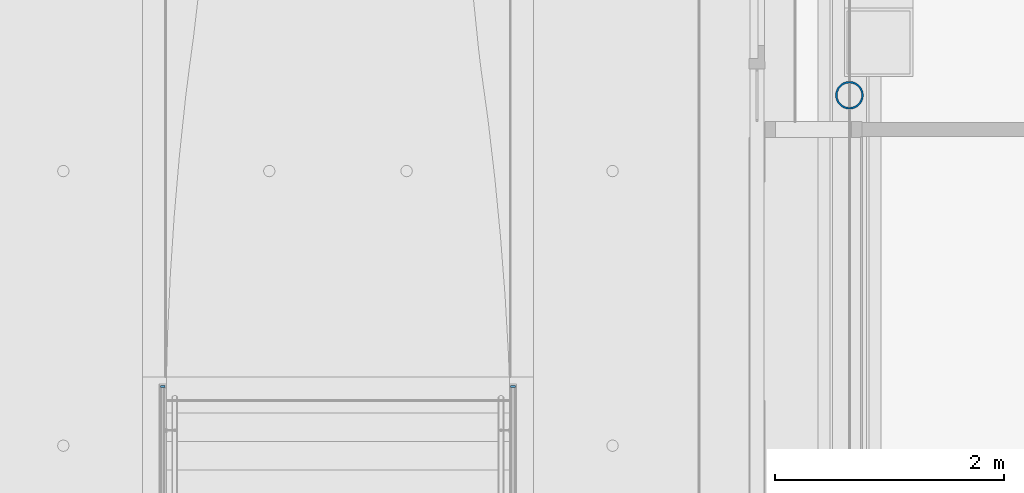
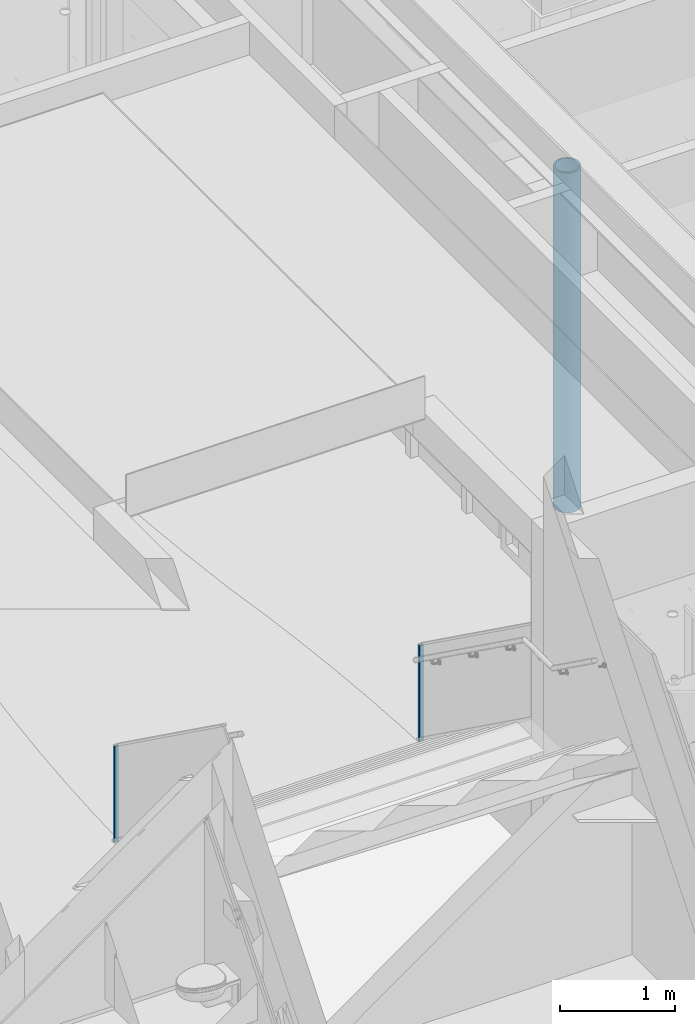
# One storey, part 20 of 347: 3 columns.
"""IFC2X3 building model written with IfcOpenShell, lengths in millimetres."""

from ifc_helpers import new_model, entity, si_unit, converted_unit, derived_unit, money_unit, direction, frame, origin_with_axes, place, context, subcontext, project, spatial, faceted_brep, material, type_object, element, save


model = new_model("IFC2X3")

# Units and contexts
model_context = context("Model", 3, precision=0.01, world=origin_with_axes(), true_north=direction((0.0, 1.0)))
plan_context = context("Plan", 3, precision=0.01, world=origin_with_axes(), true_north=direction((0.0, 1.0)))
body_context = subcontext(model_context, "Body", "Model", "MODEL_VIEW")
ifc_project = project(units=[si_unit("LENGTHUNIT", "METRE", prefix="MILLI"), si_unit("AREAUNIT", "SQUARE_METRE"), si_unit("VOLUMEUNIT", "CUBIC_METRE"), converted_unit("PLANEANGLEUNIT", "DEGREE", entity("IfcPlaneAngleMeasure", 0.0174532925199), si_unit("PLANEANGLEUNIT", "RADIAN"), dimensions=[0, 0, 0, 0, 0, 0, 0]), money_unit("EUR"), converted_unit("TIMEUNIT", "Year", entity("IfcTimeMeasure", 31556926.0), si_unit("TIMEUNIT", "SECOND"), dimensions=[0, 0, 1, 0, 0, 0, 0]), si_unit("MASSUNIT", "GRAM", prefix="KILO"), si_unit("THERMODYNAMICTEMPERATUREUNIT", "DEGREE_CELSIUS"), si_unit("LUMINOUSINTENSITYUNIT", "LUMEN"), si_unit("ENERGYUNIT", "JOULE", prefix="MEGA"), derived_unit("THERMALCONDUCTANCEUNIT", [(si_unit("POWERUNIT", "WATT"), 1), (si_unit("LENGTHUNIT", "METRE"), -1), (si_unit("THERMODYNAMICTEMPERATUREUNIT", "KELVIN"), -1)]), derived_unit("SPECIFICHEATCAPACITYUNIT", [(si_unit("ENERGYUNIT", "JOULE"), 1), (si_unit("MASSUNIT", "GRAM", prefix="KILO"), -1), (si_unit("THERMODYNAMICTEMPERATUREUNIT", "KELVIN"), -1)]), derived_unit("MASSDENSITYUNIT", [(si_unit("MASSUNIT", "GRAM", prefix="KILO"), 1), (si_unit("VOLUMEUNIT", "CUBIC_METRE"), -1)])], contexts=[model_context, plan_context])

# Site, building, storey
site_placement = place(None, origin_with_axes())
site = spatial("IfcSite", under=ifc_project, at=site_placement, Name="Site", CompositionType="ELEMENT")
building_placement = place(site_placement, origin_with_axes())
building = spatial("IfcBuilding", under=site, at=building_placement, Name="Naam gebouw", CompositionType="ELEMENT")
storey_placement = place(building_placement, origin_with_axes())
storey = spatial("IfcBuildingStorey", under=building, at=storey_placement, Name="begane grond", CompositionType="ELEMENT", Elevation=0.0)

# Columns
ifc_material_1 = material(Name="Metaal - RVS")
column_type_1 = type_object("IfcColumnType", Name="Metaal - RVS 40 x 20", PredefinedType="COLUMN")
column_1_placement = place(storey_placement, frame((38545.0, 36779.9999997, 0.0), z_axis=(0.0, 0.0, 1.0), x_axis=(1.0, 0.0, 0.0)))
element("IfcColumn", 1, at=column_1_placement, inside=storey, type_object=column_type_1, material=ifc_material_1, Name="28_kolom ø 274mm", ObjectType="COLUMN", context=body_context, shape_type="Brep", body=[
    faceted_brep([(-20.0, -10.0, 1021.59999667), (-20.0, -10.0, 0.0), (20.0, -10.0, 0.0), (20.0, -10.0, 1021.59999667), (-20.0, 10.0, 1021.59999667), (-20.0, 10.0, 0.0), (20.0, 10.0, 0.0), (20.0, 10.0, 1021.59999667)], [[[0, 1, 2, 3]], [[4, 5, 1, 0]], [[2, 1, 5, 6]], [[3, 2, 6, 7]], [[4, 0, 3, 7]], [[7, 6, 5, 4]]]),
])
column_2_placement = place(storey_placement, frame((41605.0, 36779.9999997, 0.0), z_axis=(0.0, 0.0, 1.0), x_axis=(1.0, 0.0, 0.0)))
element("IfcColumn", 2, at=column_2_placement, inside=storey, type_object=column_type_1, material=ifc_material_1, Name="28_kolom ø 274mm", ObjectType="COLUMN", context=body_context, shape_type="Brep", body=[
    faceted_brep([(20.0, 10.0, 1021.59999667), (20.0, 10.0, 0.0), (-20.0, 10.0, 0.0), (-20.0, 10.0, 1021.59999667), (20.0, -10.0, 1021.59999667), (20.0, -10.0, 0.0), (-20.0, -10.0, 0.0), (-20.0, -10.0, 1021.59999667)], [[[0, 1, 2, 3]], [[4, 5, 1, 0]], [[2, 1, 5, 6]], [[3, 2, 6, 7]], [[4, 0, 3, 7]], [[7, 6, 5, 4]]]),
])
ifc_material_2 = material(Name="Metaal - Staal C wit")
column_type_2 = type_object("IfcColumnType", Name="Lucht D245", PredefinedType="COLUMN")
column_3_placement = place(storey_placement, frame((44545.0, 39325.0, -70.0), z_axis=(0.0, 0.0, 1.0), x_axis=(1.0, 0.0, 0.0)))
element("IfcColumn", 3, at=column_3_placement, inside=storey, type_object=column_type_2, material=ifc_material_2, Name="28_kolom ø 273mm", ObjectType="COLUMN", context=body_context, shape_type="Brep", body=[
    faceted_brep([(-122.25, 0.0, 0.0), (-119.184937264, -27.2031841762, 0.0), (-119.184937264, -27.2031841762, 3610.0), (-122.25, 0.0, 3610.0), (-119.184937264, 27.2031841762, 0.0), (-110.143444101, 53.0422871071, 0.0), (-95.5788987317, 76.2216282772, 0.0), (-76.2216282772, 95.5788987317, 0.0), (-53.0422871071, 110.143444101, 0.0), (-27.2031841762, 119.184937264, 0.0), (0.0, 122.25, 0.0), (27.2031841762, 119.184937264, 0.0), (53.0422871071, 110.143444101, 0.0), (76.2216282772, 95.5788987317, 0.0), (95.5788987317, 76.2216282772, 0.0), (110.143444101, 53.0422871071, 0.0), (119.184937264, 27.2031841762, 0.0), (122.25, 0.0, 0.0), (119.184937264, -27.2031841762, 0.0), (110.143444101, -53.0422871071, 0.0), (95.5788987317, -76.2216282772, 0.0), (76.2216282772, -95.5788987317, 0.0), (53.0422871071, -110.143444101, 0.0), (27.2031841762, -119.184937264, 0.0), (0.0, -122.25, 0.0), (-27.2031841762, -119.184937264, 0.0), (-53.0422871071, -110.143444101, 0.0), (-76.2216282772, -95.5788987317, 0.0), (-95.5788987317, -76.2216282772, 0.0), (-110.143444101, -53.0422871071, 0.0), (-106.25, 0.0, 0.0), (-102.629619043, -27.4995235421, 0.0), (-92.0151991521, -53.125, 0.0), (-75.1300955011, -75.1300955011, 0.0), (-53.125, -92.0151991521, 0.0), (-27.4995235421, -102.629619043, 0.0), (0.0, -106.25, 0.0), (27.4995235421, -102.629619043, 0.0), (53.125, -92.0151991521, 0.0), (75.1300955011, -75.1300955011, 0.0), (92.0151991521, -53.125, 0.0), (102.629619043, -27.4995235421, 0.0), (106.25, 0.0, 0.0), (102.629619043, 27.4995235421, 0.0), (92.0151991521, 53.125, 0.0), (75.1300955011, 75.1300955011, 0.0), (53.125, 92.0151991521, 0.0), (27.4995235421, 102.629619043, 0.0), (0.0, 106.25, 0.0), (-27.4995235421, 102.629619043, 0.0), (-53.125, 92.0151991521, 0.0), (-75.1300955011, 75.1300955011, 0.0), (-92.0151991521, 53.125, 0.0), (-102.629619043, 27.4995235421, 0.0), (-110.143444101, -53.0422871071, 3610.0), (-95.5788987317, -76.2216282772, 3610.0), (-76.2216282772, -95.5788987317, 3610.0), (-53.0422871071, -110.143444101, 3610.0), (-27.2031841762, -119.184937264, 3610.0), (0.0, -122.25, 3610.0), (27.2031841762, -119.184937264, 3610.0), (53.0422871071, -110.143444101, 3610.0), (76.2216282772, -95.5788987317, 3610.0), (95.5788987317, -76.2216282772, 3610.0), (110.143444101, -53.0422871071, 3610.0), (119.184937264, -27.2031841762, 3610.0), (122.25, 0.0, 3610.0), (119.184937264, 27.2031841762, 3610.0), (110.143444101, 53.0422871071, 3610.0), (95.5788987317, 76.2216282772, 3610.0), (76.2216282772, 95.5788987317, 3610.0), (53.0422871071, 110.143444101, 3610.0), (27.2031841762, 119.184937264, 3610.0), (0.0, 122.25, 3610.0), (-27.2031841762, 119.184937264, 3610.0), (-53.0422871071, 110.143444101, 3610.0), (-76.2216282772, 95.5788987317, 3610.0), (-95.5788987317, 76.2216282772, 3610.0), (-110.143444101, 53.0422871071, 3610.0), (-119.184937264, 27.2031841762, 3610.0), (-106.25, 0.0, 3610.0), (-102.629619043, 27.4995235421, 3610.0), (-92.0151991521, 53.125, 3610.0), (-75.1300955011, 75.1300955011, 3610.0), (-53.125, 92.0151991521, 3610.0), (-27.4995235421, 102.629619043, 3610.0), (0.0, 106.25, 3610.0), (27.4995235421, 102.629619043, 3610.0), (53.125, 92.0151991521, 3610.0), (75.1300955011, 75.1300955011, 3610.0), (92.0151991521, 53.125, 3610.0), (102.629619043, 27.4995235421, 3610.0), (106.25, 0.0, 3610.0), (102.629619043, -27.4995235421, 3610.0), (92.0151991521, -53.125, 3610.0), (75.1300955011, -75.1300955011, 3610.0), (53.125, -92.0151991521, 3610.0), (27.4995235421, -102.629619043, 3610.0), (0.0, -106.25, 3610.0), (-27.4995235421, -102.629619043, 3610.0), (-53.125, -92.0151991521, 3610.0), (-75.1300955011, -75.1300955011, 3610.0), (-92.0151991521, -53.125, 3610.0), (-102.629619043, -27.4995235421, 3610.0)], [[[0, 1, 2, 3]], [[0, 4, 5, 6, 7, 8, 9, 10, 11, 12, 13, 14, 15, 16, 17, 18, 19, 20, 21, 22, 23, 24, 25, 26, 27, 28, 29, 1], [30, 31, 32, 33, 34, 35, 36, 37, 38, 39, 40, 41, 42, 43, 44, 45, 46, 47, 48, 49, 50, 51, 52, 53]], [[1, 29, 54, 2]], [[3, 2, 54, 55, 56, 57, 58, 59, 60, 61, 62, 63, 64, 65, 66, 67, 68, 69, 70, 71, 72, 73, 74, 75, 76, 77, 78, 79], [80, 81, 82, 83, 84, 85, 86, 87, 88, 89, 90, 91, 92, 93, 94, 95, 96, 97, 98, 99, 100, 101, 102, 103]], [[4, 0, 3, 79]], [[5, 4, 79, 78]], [[6, 5, 78, 77]], [[7, 6, 77, 76]], [[8, 7, 76, 75]], [[9, 8, 75, 74]], [[10, 9, 74, 73]], [[11, 10, 73, 72]], [[12, 11, 72, 71]], [[13, 12, 71, 70]], [[14, 13, 70, 69]], [[15, 14, 69, 68]], [[16, 15, 68, 67]], [[17, 16, 67, 66]], [[18, 17, 66, 65]], [[19, 18, 65, 64]], [[20, 19, 64, 63]], [[21, 20, 63, 62]], [[22, 21, 62, 61]], [[23, 22, 61, 60]], [[24, 23, 60, 59]], [[25, 24, 59, 58]], [[26, 25, 58, 57]], [[27, 26, 57, 56]], [[28, 27, 56, 55]], [[29, 28, 55, 54]], [[31, 30, 80, 103]], [[32, 31, 103, 102]], [[33, 32, 102, 101]], [[34, 33, 101, 100]], [[35, 34, 100, 99]], [[36, 35, 99, 98]], [[37, 36, 98, 97]], [[38, 37, 97, 96]], [[39, 38, 96, 95]], [[40, 39, 95, 94]], [[41, 40, 94, 93]], [[42, 41, 93, 92]], [[43, 42, 92, 91]], [[44, 43, 91, 90]], [[45, 44, 90, 89]], [[46, 45, 89, 88]], [[47, 46, 88, 87]], [[48, 47, 87, 86]], [[49, 48, 86, 85]], [[50, 49, 85, 84]], [[51, 50, 84, 83]], [[52, 51, 83, 82]], [[53, 52, 82, 81]], [[30, 53, 81, 80]]]),
])

save(model, "model.ifc")
